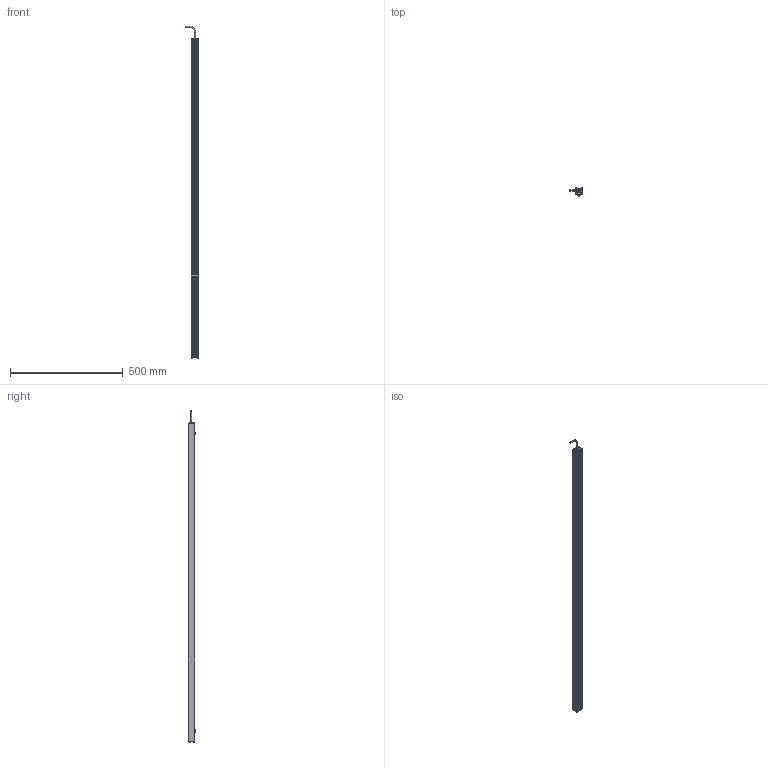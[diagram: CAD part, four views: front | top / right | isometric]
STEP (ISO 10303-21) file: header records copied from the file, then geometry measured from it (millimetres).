
FILE_DESCRIPTION (( 'STEP AP214' ), '1' );
FILE_NAME ('AL150XXXX_AL150324.stp', '2021-04-29T15:41:43', ( '' ), ( '' ), 'SwSTEP 2.0', 'SolidWorks 2018', '' );
FILE_SCHEMA (( 'AUTOMOTIVE_DESIGN' ));
Length unit declared in the file: inch
Products named in the file (12): 093145_93701A253; Part1^AL150XXXX; 092408_TRUNCATED; 116-02-006; 150-01-005-XXX_150-01-005-324; 150-03-006-XXXX_150-03-006-324; Part2^AL150XXXX; 1157 (no strap); CHM6x8_91460A312; 116-02-007; HN-M6_90592A016; AL150XXXX_AL150324
Assembly tree (18 placements, depth 2):
  Part1^AL150XXXX
  Part2^AL150XXXX
  AL150XXXX_AL150324
    150-01-005-XXX_150-01-005-324
    116-02-006
    093145_93701A253  x8
    HN-M6_90592A016  x2
    CHM6x8_91460A312  x2
    150-03-006-XXXX_150-03-006-324
    116-02-007
    1157 (no strap)
    092408_TRUNCATED
Bounding box: 60.68 x 33.84 x 1474.9 mm (x, y, z)
Volume: 440020.7 mm3; surface area: 465419.1 mm2
Topology: 26 solids, 26 shells, 1306 faces, 3436 edges, 2127 vertices
Faces by surface type: cylinder 805, cone 249, plane 153, torus 59, bspline 32, sphere 8
Entity records: 18285 total; most frequent: CARTESIAN_POINT 6069, ORIENTED_EDGE 2496, DIRECTION 2311, EDGE_CURVE 1248, AXIS2_PLACEMENT_3D 881, VERTEX_POINT 800, LINE 549, VECTOR 549
